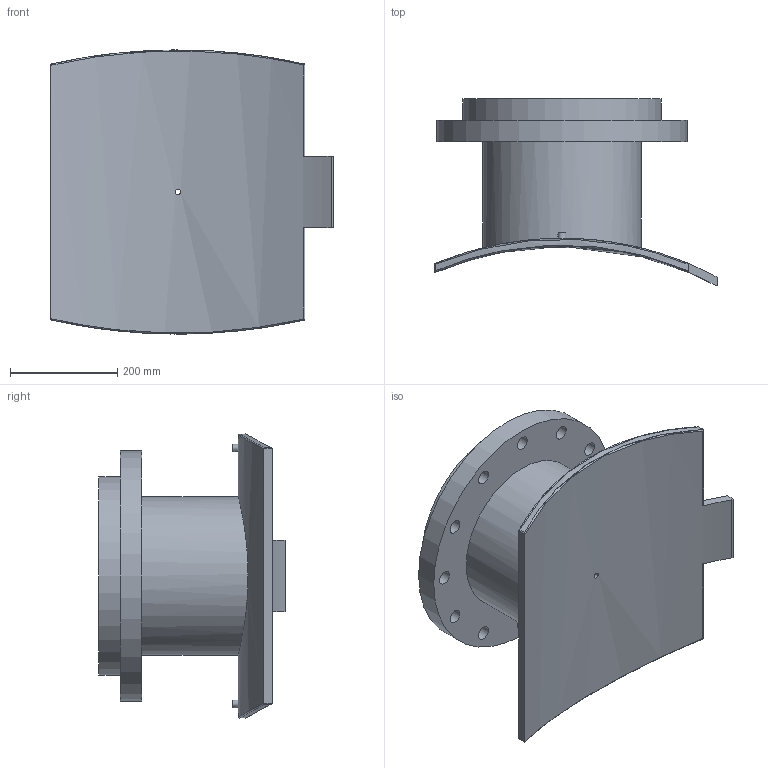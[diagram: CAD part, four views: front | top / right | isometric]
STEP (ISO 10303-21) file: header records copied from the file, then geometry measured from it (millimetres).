
FILE_DESCRIPTION(/* description */ ('PLASSON FLANGED BRANCH SADDLE 1200X300'),/* implementation_level */ '2;1');
FILE_NAME(/* name */ 'C:\Dropbox\KIMPROJECTS-Inventor 2019\99-16-3568-Processing\ElectroFusion Fittings\495904_495903\stp\4959031200300T.stp',/* time_stamp */ '2024-04-03T21:05:50+02:00',/* author */ ('KIM'),/* organization */ (''),/* preprocessor_version */ 'ST-DEVELOPER v17.2',/* originating_system */ 'Autodesk Inventor 2019',/* authorisation */ '');
FILE_SCHEMA (('AUTOMOTIVE_DESIGN { 1 0 10303 214 3 1 1 }'));
Length unit declared in the file: millimetre
Products named in the file (1): 4959031200300T
Bounding box: 526 x 347.29 x 529.59 mm (x, y, z)
Volume: 13800739.1 mm3; surface area: 1288528.9 mm2
Topology: 1 solids, 1 shells, 62 faces, 163 edges, 126 vertices
Faces by surface type: cylinder 35, plane 17, sphere 4, bspline 4, cone 2
Full cylindrical faces by diameter (mm): 4 x2, 10 x2, 10.4 x1, 16 x1, 26 x12, 257 x1, 296 x1, 370 x1, 467 x1
Entity records: 2599 total; most frequent: CARTESIAN_POINT 971, DIRECTION 325, ORIENTED_EDGE 298, EDGE_CURVE 149, AXIS2_PLACEMENT_3D 137, VERTEX_POINT 100, EDGE_LOOP 99, CIRCLE 78
